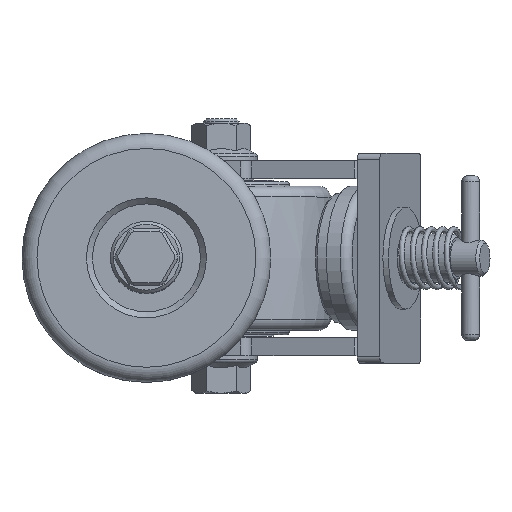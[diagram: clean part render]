
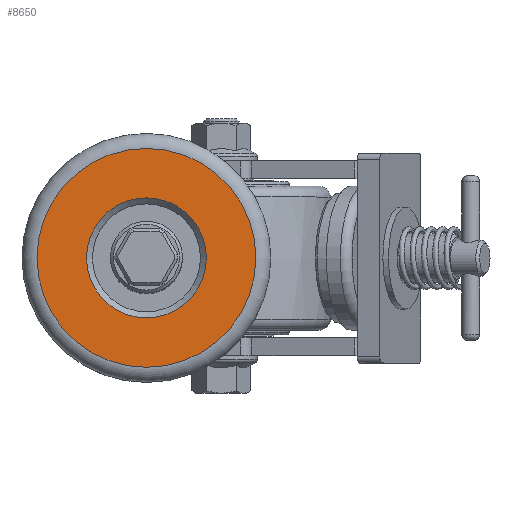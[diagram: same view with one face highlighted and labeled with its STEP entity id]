
A CAD part, top view. The second image highlights one B-rep face of the part: STEP entity #8650.
In plain terms, the highlighted planar face has unit normal (0, 0, 1).
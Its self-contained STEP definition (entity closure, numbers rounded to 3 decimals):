
#553=FACE_BOUND('',#1926,.T.);
#826=PLANE('',#9262);
#1364=FACE_OUTER_BOUND('',#1925,.T.);
#1925=EDGE_LOOP('',(#8116));
#1926=EDGE_LOOP('',(#8117));
#3643=CIRCLE('',#9260,36.5);
#3645=CIRCLE('',#9263,20.);
#4447=VERTEX_POINT('',#21941);
#4448=VERTEX_POINT('',#21945);
#5670=EDGE_CURVE('',#4447,#4447,#3643,.T.);
#5672=EDGE_CURVE('',#4448,#4448,#3645,.T.);
#8116=ORIENTED_EDGE('',*,*,#5670,.T.);
#8117=ORIENTED_EDGE('',*,*,#5672,.F.);
#8650=ADVANCED_FACE('',(#1364,#553),#826,.T.);
#9260=AXIS2_PLACEMENT_3D('',#21942,#11195,#11196);
#9262=AXIS2_PLACEMENT_3D('',#21944,#11199,#11200);
#9263=AXIS2_PLACEMENT_3D('',#21946,#11201,#11202);
#11195=DIRECTION('center_axis',(0.,0.,
1.));
#11196=DIRECTION('ref_axis',(1.,0.,0.));
#11199=DIRECTION('center_axis',(0.,0.,
1.));
#11200=DIRECTION('ref_axis',(1.,0.,0.));
#11201=DIRECTION('center_axis',(0.,0.,
1.));
#11202=DIRECTION('ref_axis',(1.,0.,0.));
#21941=CARTESIAN_POINT('',(-36.5,0.,0.));
#21942=CARTESIAN_POINT('Origin',(0.,0.,
0.));
#21944=CARTESIAN_POINT('Origin',(20.,0.,0.));
#21945=CARTESIAN_POINT('',(-20.,0.,0.));
#21946=CARTESIAN_POINT('Origin',(0.,0.,
0.));
